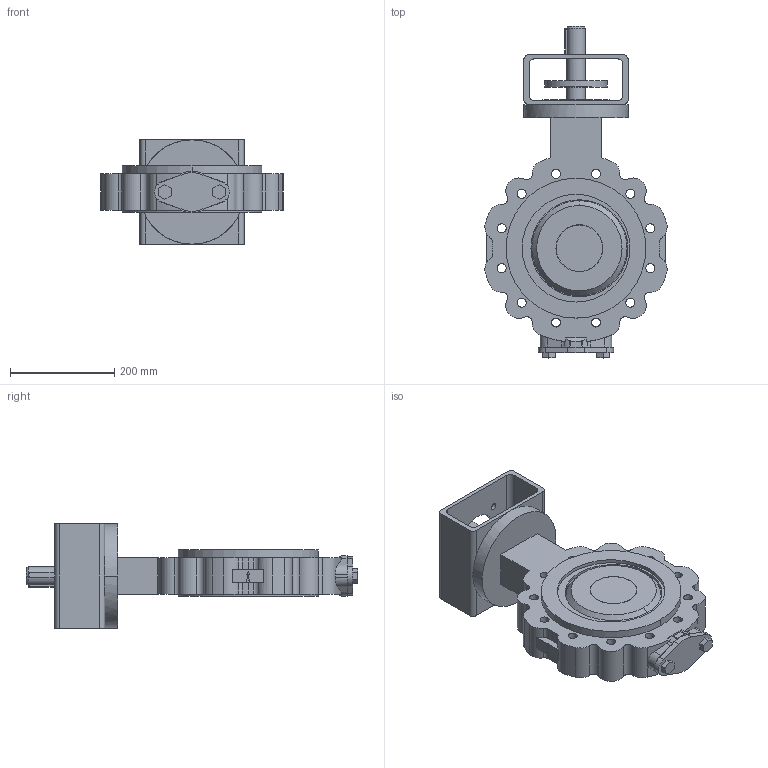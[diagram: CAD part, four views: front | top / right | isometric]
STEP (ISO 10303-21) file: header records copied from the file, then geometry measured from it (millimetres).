
FILE_DESCRIPTION( ( '' ), '1' );
FILE_NAME( 'F:/DE-SHS/TB/OR/04-Sonstiges/daten/files_3d/018_ZETRIX-PN10_freiesWellende/c000006360.stp', '2016-09-01T11:04:24', ( '' ), ( '' ), ' ', ' ', ' ' );
FILE_SCHEMA( ( 'CONFIG_CONTROL_DESIGN' ) );
Length unit declared in the file: millimetre
Products named in the file (1): 1
Bounding box: 349.38 x 636.4 x 200 mm (x, y, z)
Volume: 8521942.9 mm3; surface area: 724184.8 mm2
Topology: 1 solids, 1 shells, 276 faces, 760 edges, 504 vertices
Faces by surface type: cylinder 168, plane 102, cone 4, sphere 2
Entity records: 9814 total; most frequent: CARTESIAN_POINT 2341, DIRECTION 1652, ORIENTED_EDGE 1520, EDGE_CURVE 760, AXIS2_PLACEMENT_3D 647, VERTEX_POINT 504, LINE 358, CIRCLE 358
